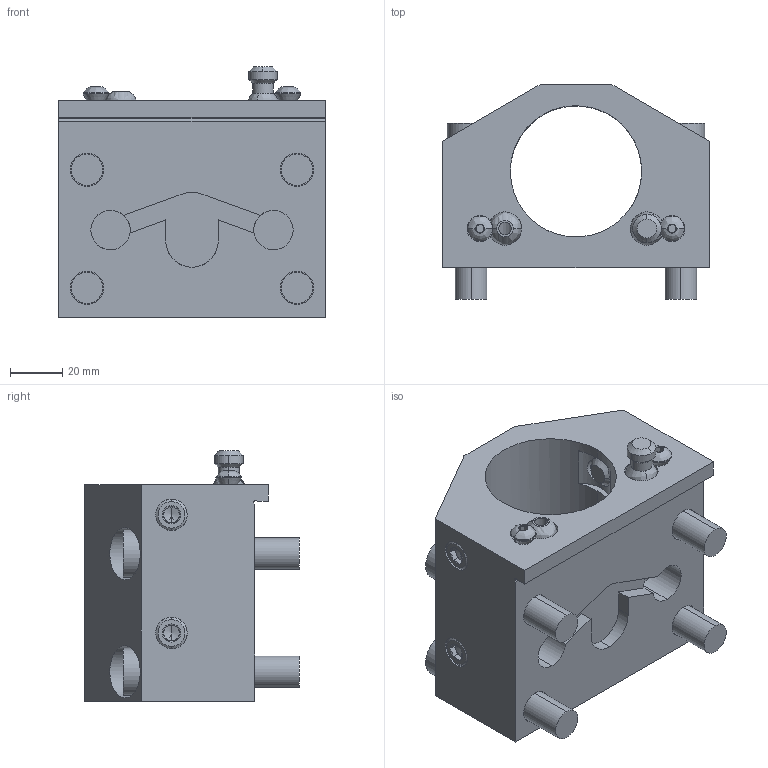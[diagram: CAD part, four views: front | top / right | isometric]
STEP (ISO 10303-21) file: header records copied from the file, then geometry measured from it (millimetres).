
FILE_DESCRIPTION (( 'STEP AP203' ), '1' );
FILE_NAME ('04-0749, BOT20MID-50.STEP', '2022-07-18T22:08:47', ( '' ), ( '' ), 'SwSTEP 2.0', 'SolidWorks 2021', '' );
FILE_SCHEMA (( 'CONFIG_CONTROL_DESIGN' ));
Length unit declared in the file: inch
Products named in the file (1): 04-0749, BOT20MID-50
Bounding box: 101.6 x 81.67 x 95.42 mm (x, y, z)
Surface area: 76738.8 mm2 (no closed solid volume)
Topology: 0 solids, 24 shells, 345 faces, 910 edges, 587 vertices
Faces by surface type: plane 164, cylinder 81, cone 74, bspline 26
Entity records: 17751 total; most frequent: CARTESIAN_POINT 9652, ORIENTED_EDGE 1681, DIRECTION 1517, EDGE_CURVE 894, VERTEX_POINT 587, AXIS2_PLACEMENT_3D 563, EDGE_LOOP 392, VECTOR 391
